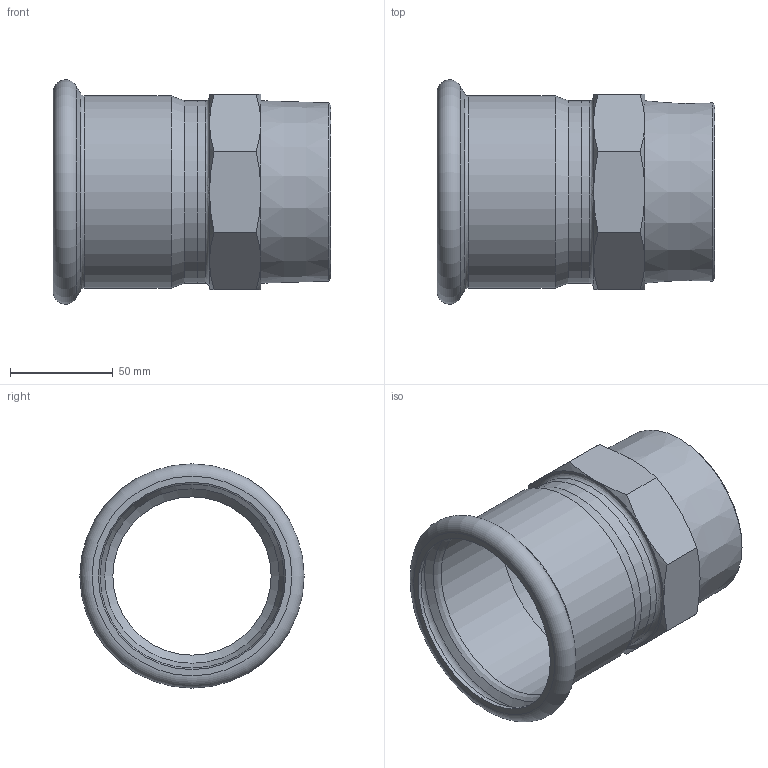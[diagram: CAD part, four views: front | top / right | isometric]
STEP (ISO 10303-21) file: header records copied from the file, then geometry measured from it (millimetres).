
FILE_DESCRIPTION((''),'2;1');
FILE_NAME('G:\Nirosan-Schmiedefeld\Technics\CAD\Bauteile\089\69243G893(1).stp','2008-06-20T11:06:36',('herberg'),(''),'Autodesk Inventor 2009','Autodesk Inventor 2009','');
FILE_SCHEMA(('AUTOMOTIVE_DESIGN { 1 0 10303 214 1 1 1 1 }'));
Length unit declared in the file: millimetre
Products named in the file (3): 69243G893(1); HM_6924389(1); AG893(1)
Assembly tree (2 placements, depth 2):
  69243G893(1)
    HM_6924389(1)
    AG893(1)
Bounding box: 135 x 109.09 x 109.09 mm (x, y, z)
Volume: 150495.6 mm3; surface area: 86581.1 mm2
Topology: 2 solids, 2 shells, 52 faces, 108 edges, 63 vertices
Faces by surface type: cone 23, plane 15, cylinder 6, bspline 6, torus 2
Full cylindrical faces by diameter (mm): 84.9 x1, 88.9 x2, 89.5 x1, 91 x1, 93.5 x1
Entity records: 1435 total; most frequent: CARTESIAN_POINT 446, DIRECTION 196, ORIENTED_EDGE 166, AXIS2_PLACEMENT_3D 94, EDGE_CURVE 83, EDGE_LOOP 80, VERTEX_POINT 59, FACE_OUTER_BOUND 52
